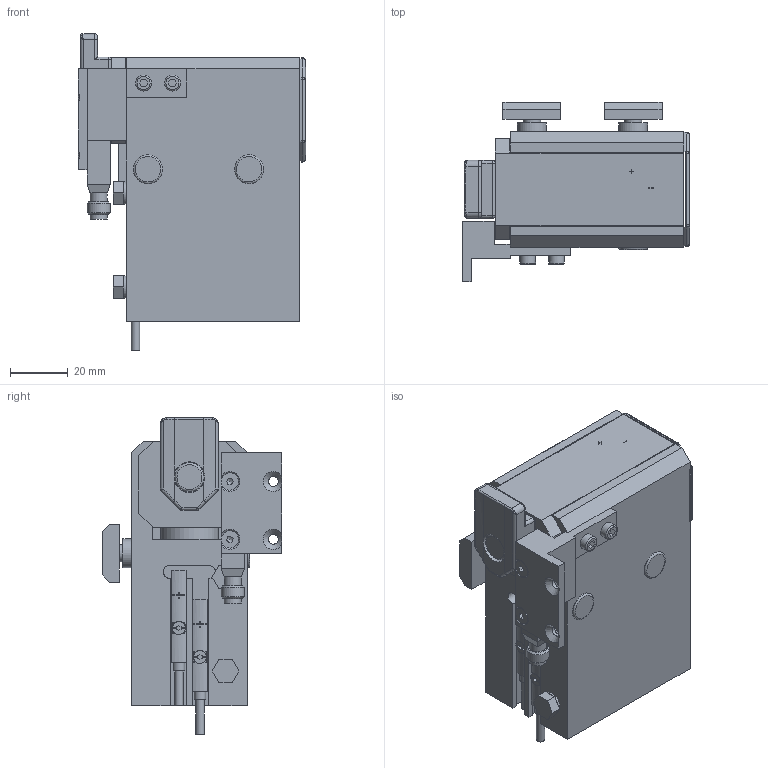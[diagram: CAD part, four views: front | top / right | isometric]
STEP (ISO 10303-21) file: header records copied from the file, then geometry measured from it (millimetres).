
FILE_DESCRIPTION(/* description */ (''),/* implementation_level */ '2;1');
FILE_NAME(/* name */ 'C:\Marketing\01_Versamove-SPU_STEP-Dateien-Homepage\Versamove plus\ASM-60_Reed.stp',/* time_stamp */ '2016-12-22T15:27:23+01:00',/* author */ ('herbert.engels'),/* organization */ (''),/* preprocessor_version */ 'ST-DEVELOPER v15.6',/* originating_system */ 'Autodesk Inventor 2015',/* authorisation */ '');
FILE_SCHEMA (('CONFIG_CONTROL_DESIGN'));
Length unit declared in the file: millimetre
Products named in the file (1): ASM-60_Reed
Bounding box: 78.5 x 62.2 x 109.32 mm (x, y, z)
Volume: 230864.4 mm3; surface area: 47109.6 mm2
Topology: 1 solids, 1 shells, 453 faces, 1170 edges, 740 vertices
Faces by surface type: plane 288, cylinder 118, cone 16, sphere 16, bspline 8, torus 7
Full cylindrical faces by diameter (mm): 1.5 x1, 2 x2, 2.459 x2, 2.5 x2, 2.9 x2, 3 x2, 3.4 x6, 4 x4, 4.5 x2, 5 x1, 5.5 x2, 6 x6, 7.8 x3, 8 x1, 10 x6, 10.6 x1, 20 x1
Entity records: 14194 total; most frequent: CARTESIAN_POINT 2972, DIRECTION 2197, ORIENTED_EDGE 2136, EDGE_CURVE 1068, LINE 743, VECTOR 743, AXIS2_PLACEMENT_3D 727, VERTEX_POINT 713
